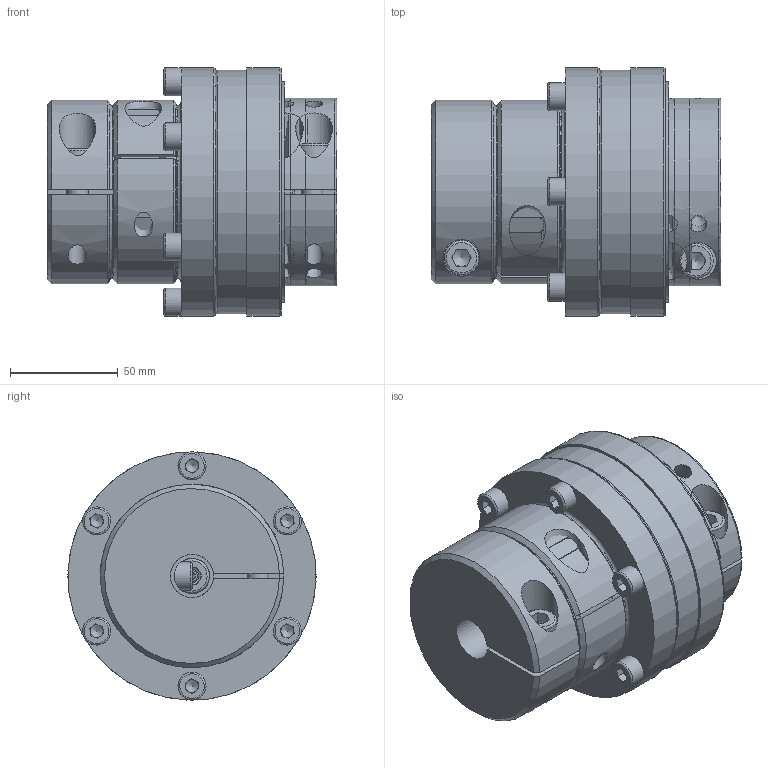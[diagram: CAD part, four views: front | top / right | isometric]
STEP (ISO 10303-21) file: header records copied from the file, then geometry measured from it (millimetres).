
FILE_DESCRIPTION( ( 'Unknown' ), '1' );
FILE_NAME( 'F:/JAKOB-STEP+IGES-Dateien/STEP-Dateien/SKB-EK/SKB-EK 330.stp', 'Unknown', ( 'Unknown' ), ( 'Unknown' ), 'XStep 1.0', 'Unknown', ' ' );
FILE_SCHEMA( ( 'CONFIG_CONTROL_DESIGN' ) );
Length unit declared in the file: millimetre
Products named in the file (11): Assem1; SKB 330; 23917282; KT102586; KT101950; KT102204; KT100090; Elastomerteil 4; kt100627
Bounding box: 134.1 x 115 x 115 mm (x, y, z)
Surface area: 488795.4 mm2
Topology: 29 solids, 29 shells, 1292 faces, 3576 edges, 2289 vertices
Faces by surface type: plane 450, cylinder 437, cone 208, torus 149, sphere 36, bspline 12
Full cylindrical faces by diameter (mm): 2.5 x6, 5 x3, 6 x19, 6.8 x18, 8 x16, 8.5 x5, 8.6 x12, 10 x5, 10.5 x5, 13 x7, 16 x5, 16.5 x2, 17 x5, 21 x3, 38 x4, 47.5 x3, 49 x2, 49.8 x3, 50 x6, 62 x3, 62.5 x6, 78.1 x6, 80 x2, 90 x8, 93.5 x3, 94 x3, 97.9 x3, 102 x3, 109 x3, 113 x3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
Entity records: 17814 total; most frequent: CARTESIAN_POINT 5435, DIRECTION 2486, ORIENTED_EDGE 2402, EDGE_CURVE 1201, AXIS2_PLACEMENT_3D 1062, VERTEX_POINT 821, EDGE_LOOP 672, CIRCLE 561
